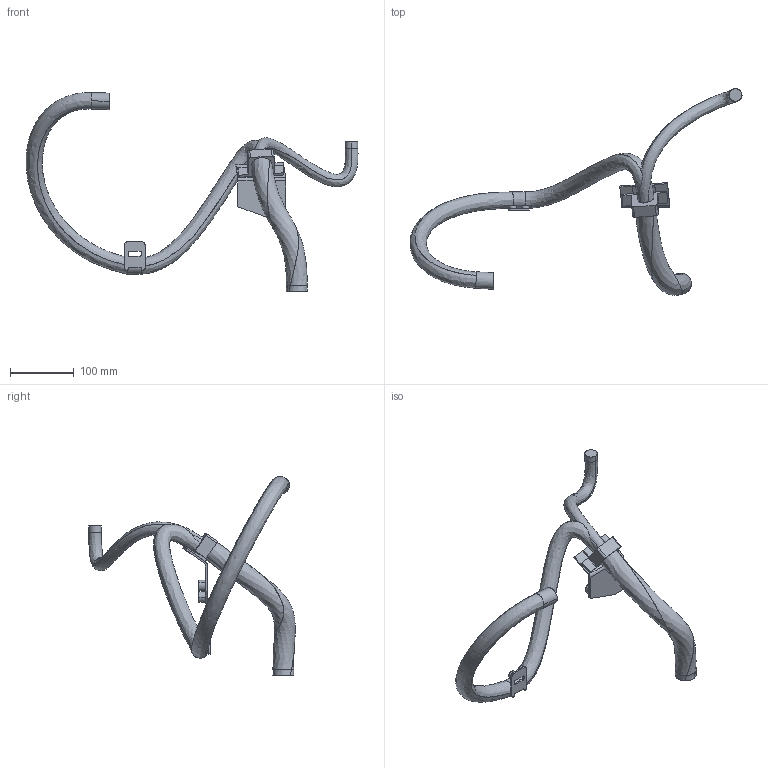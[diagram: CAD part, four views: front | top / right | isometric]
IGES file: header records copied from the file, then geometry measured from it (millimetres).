
Start section: SolidWorks IGES file using analytic representation for surfaces
Global section: file name: B:\DM\Robotics\SEROP_PROJ\Product Development\DevelopmentProjects\Manipulator_Modularity\04. Product Design\06. CAD\Amanda\7720 Lightweight models\IRB7720_530kg-310_OC_00_SW_J\IRB7720_All-310_OC_00_LINK03m_CABLE.IGS; native system: SolidWorks 2022; preprocessor: SolidWorks 2022; author: SEAMSTO1; date: 240119.094745; units: millimetre
Bounding box: 522.25 x 324.87 x 312.97 mm (x, y, z)
Surface area: 131677.2 mm2 (no closed solid volume)
Topology: 0 solids, 0 shells, 95 faces, 1500 edges, 1500 vertices
Faces by surface type: bspline 61, revolution 34
